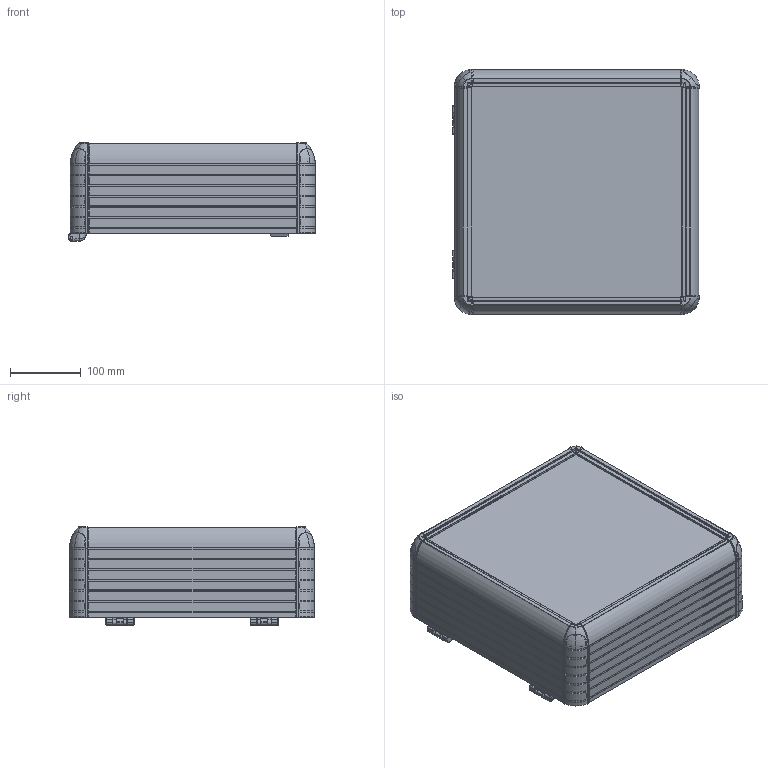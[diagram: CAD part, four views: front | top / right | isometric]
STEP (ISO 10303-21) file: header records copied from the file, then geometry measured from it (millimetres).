
FILE_DESCRIPTION (( 'STEP AP214' ), '1' );
FILE_NAME ('1200-0004.STEP', '2022-09-01T07:27:47', ( '' ), ( '' ), 'SwSTEP 2.0', 'SolidWorks 2022', '' );
FILE_SCHEMA (( 'AUTOMOTIVE_DESIGN' ));
Length unit declared in the file: millimetre
Products named in the file (5): 300X300; ECO1200-0000; HPECO-120-001-295_295; 1200-0004; ARKA_KAPAK_300X300
Assembly tree (10 placements, depth 2):
  1200-0004
    300X300
    ARKA_KAPAK_300X300
    HPECO-120-001-295_295  x4
    ECO1200-0000  x4
Bounding box: 349.03 x 347 x 139.15 mm (x, y, z)
Volume: 2958270.5 mm3; surface area: 950707.3 mm2
Topology: 18 solids, 68 shells, 5793 faces, 15616 edges, 9766 vertices
Faces by surface type: plane 2417, cylinder 1464, bspline 1056, cone 566, torus 244, sphere 46
Entity records: 145186 total; most frequent: CARTESIAN_POINT 34696, ORIENTED_EDGE 17332, DIRECTION 15223, EDGE_CURVE 8666, AXIS2_PLACEMENT_3D 5603, VERTEX_POINT 5389, VECTOR 4017, LINE 4017
